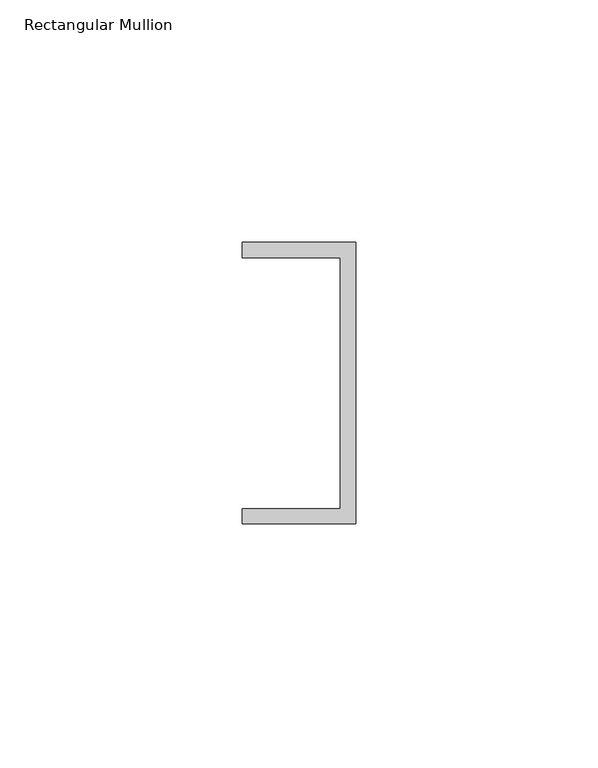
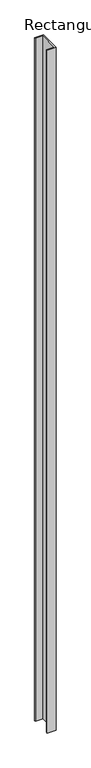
"""IFC4 building model written with IfcOpenShell, lengths in millimetres: member geometry, Rectangular Mullion : Frame-Teknion-Altos-Ceiling_Channel."""

from ifc_helpers import new_model, si_unit, frame, origin, place, context, project, spatial, polyline, outline, extrude, source, transform, mapped, element, save


def rectangular_mullion_c03277eb(model_context):
    return source(origin(), model_context, "Body", "SweptSolid", [
        extrude(outline(polyline([(0.0, 29.0214844), (0.0, -29.0214844), (-23.3164063, -29.0214844), (-23.3164063, -25.8464844), (-3.175, -25.8464844), (-3.175, 25.8464844), (-23.3164063, 25.8464844), (-23.3164063, 29.0214844), (0.0, 29.0214844)])), frame((0.0, 0.0, -1930.4), z_axis=(0.0, 0.0, 1.0), x_axis=(1.0, 0.0, 0.0)), (0.0, 0.0, 1.0), 1930.4),
    ])


if __name__ == "__main__":
    model = new_model("IFC4")
    model_context = context("Model", 3, world=origin())
    ifc_project = project(units=[si_unit("LENGTHUNIT", "METRE", prefix="MILLI")], contexts=[model_context])
    site = spatial("IfcSite", under=ifc_project)
    building = spatial("IfcBuilding", under=site)
    placement = place(None, origin())
    rectangular_mullion_shape = rectangular_mullion_c03277eb(model_context)
    element("IfcMember", 1, ObjectType="Rectangular Mullion : Frame-Teknion-Altos-Ceiling_Channel", at=placement, inside=building, context=model_context, shape_type="MappedRepresentation", body=[
        mapped(rectangular_mullion_shape, transform((0.0, 0.0, 0.0), x_axis=(1.0, 0.0, 0.0), y_axis=(0.0, 1.0, 0.0), z_axis=(0.0, 0.0, 1.0))),
    ])
    save(model, "model.ifc")
